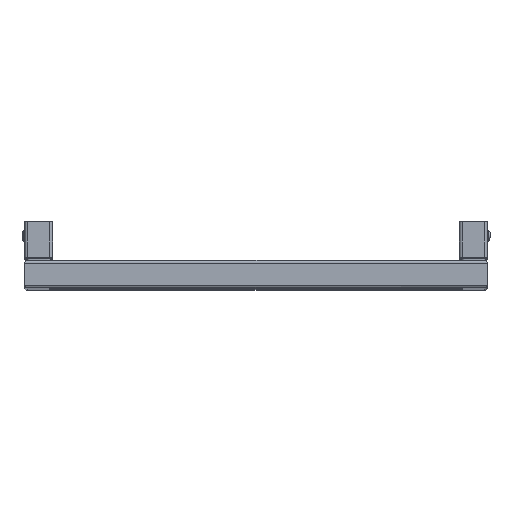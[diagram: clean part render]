
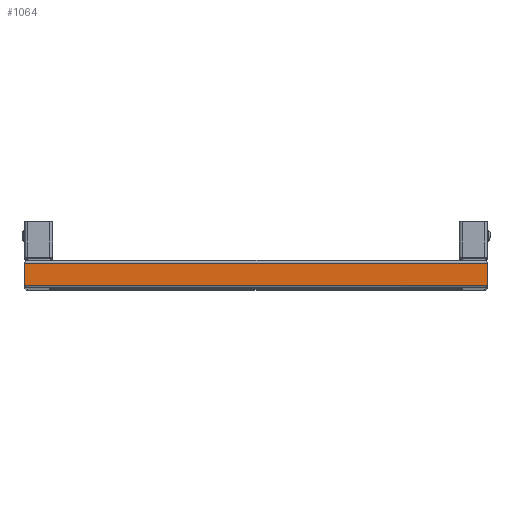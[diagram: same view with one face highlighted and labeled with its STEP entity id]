
A CAD part, top view. The second image highlights one B-rep face of the part: STEP entity #1064.
In plain terms, the highlighted planar face has unit normal (0, 0, 1).
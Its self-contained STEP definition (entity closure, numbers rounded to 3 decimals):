
#815=CARTESIAN_POINT('',(250.,27.0,1545.0));
#816=VERTEX_POINT('',#815);
#846=CARTESIAN_POINT('',(-250.,27.0,1545.0));
#847=VERTEX_POINT('',#846);
#855=CARTESIAN_POINT('',(-250.,27.0,1545.0));
#856=DIRECTION('',(1.0,0.0,0.0));
#857=VECTOR('',#856,500.);
#858=LINE('',#855,#857);
#859=EDGE_CURVE('',#847,#816,#858,.T.);
#906=CARTESIAN_POINT('',(250.,3.0,1545.0));
#907=VERTEX_POINT('',#906);
#908=CARTESIAN_POINT('',(250.,3.0,1545.0));
#909=DIRECTION('',(0.0,1.0,0.0));
#910=VECTOR('',#909,24.0);
#911=LINE('',#908,#910);
#912=EDGE_CURVE('',#907,#816,#911,.T.);
#929=CARTESIAN_POINT('',(-250.,3.0,1545.0));
#930=VERTEX_POINT('',#929);
#931=CARTESIAN_POINT('',(250.,3.0,1545.0));
#932=DIRECTION('',(-1.0,0.0,0.0));
#933=VECTOR('',#932,500.);
#934=LINE('',#931,#933);
#935=EDGE_CURVE('',#907,#930,#934,.T.);
#1044=CARTESIAN_POINT('',(-250.,3.0,1545.0));
#1045=DIRECTION('',(0.0,1.0,0.0));
#1046=VECTOR('',#1045,24.0);
#1047=LINE('',#1044,#1046);
#1048=EDGE_CURVE('',#930,#847,#1047,.T.);
#1053=CARTESIAN_POINT('',(250.,0.0,1545.0));
#1054=DIRECTION('',(0.0,0.0,1.0));
#1055=DIRECTION('',(1.0,0.0,0.0));
#1056=AXIS2_PLACEMENT_3D('',#1053,#1054,#1055);
#1057=PLANE('',#1056);
#1058=ORIENTED_EDGE('',*,*,#859,.F.);
#1059=ORIENTED_EDGE('',*,*,#1048,.F.);
#1060=ORIENTED_EDGE('',*,*,#935,.F.);
#1061=ORIENTED_EDGE('',*,*,#912,.T.);
#1062=EDGE_LOOP('',(#1058,#1059,#1060,#1061));
#1063=FACE_OUTER_BOUND('',#1062,.T.);
#1064=ADVANCED_FACE('',(#1063),#1057,.T.);
